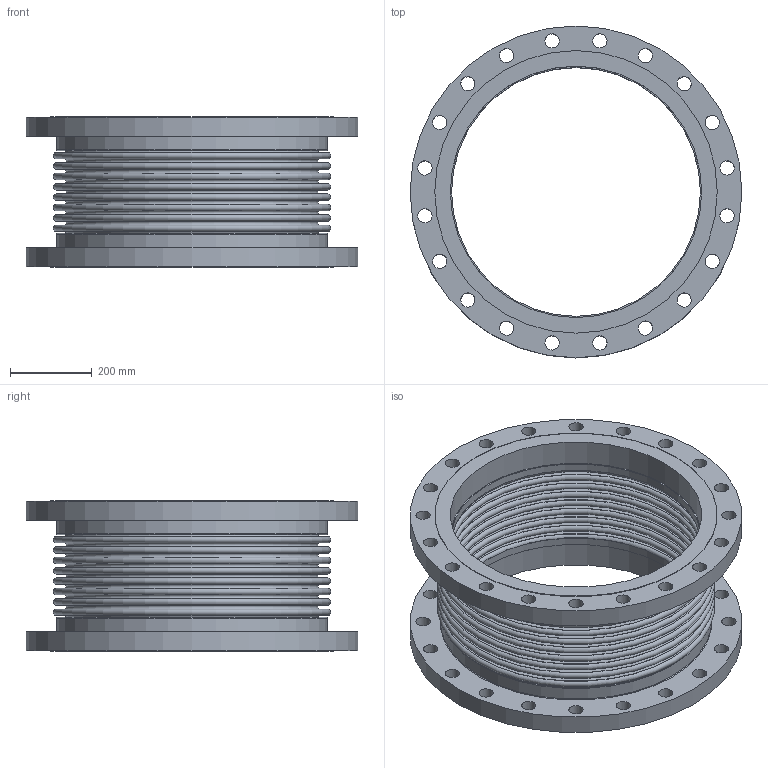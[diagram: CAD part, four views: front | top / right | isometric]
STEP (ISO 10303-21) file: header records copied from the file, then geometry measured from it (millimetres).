
FILE_DESCRIPTION(/* description */ ('EXPANSION JOINT,SINGLE, FLANGED ENDS,24 INCH','CAx-IF Rec.Pracs.---Representation and Presentation of Product Manufacturing Information (PMI)---4.0---2014-10-13'),/* implementation_level */ '2;1');
FILE_NAME(/* name */ 'US-24-8-300S-FLANGED ENDS.stp',/* time_stamp */ '2026-07-31T17:44:32-05:00',/* author */ ('Guadalupe'),/* organization */ (''),/* preprocessor_version */ 'ST-DEVELOPER v20.1',/* originating_system */ 'Autodesk Inventor 2026',/* authorisation */ '');
FILE_SCHEMA (('AP242_MANAGED_MODEL_BASED_3D_ENGINEERING_MIM_LF { 1 0 10303 442 2 1 4 }'));
Length unit declared in the file: inch
Products named in the file (3): 24-300S; 24-300S-02; 24-300S-01
Assembly tree (3 placements, depth 2):
  24-300S
    24-300S-02  x2
    24-300S-01
Bounding box: 812.8 x 812.8 x 368.3 mm (x, y, z)
Volume: 26239129.2 mm3; surface area: 4427340.2 mm2
Topology: 5 solids, 5 shells, 136 faces, 270 edges, 180 vertices
Faces by surface type: cylinder 52, plane 46, torus 38
Full cylindrical faces by diameter (mm): 34.925 x40, 609.6 x2, 615.696 x2, 615.95 x2, 663.702 x2, 692.15 x2, 812.8 x2
Entity records: 3026 total; most frequent: DIRECTION 606, CARTESIAN_POINT 449, ORIENTED_EDGE 384, AXIS2_PLACEMENT_3D 289, EDGE_CURVE 192, EDGE_LOOP 188, CIRCLE 164, VERTEX_POINT 128
